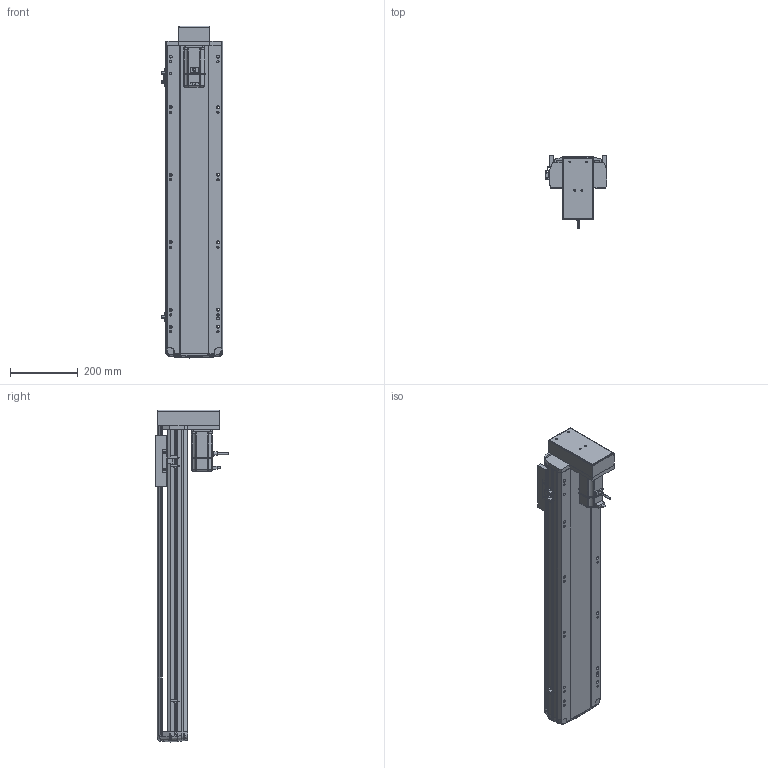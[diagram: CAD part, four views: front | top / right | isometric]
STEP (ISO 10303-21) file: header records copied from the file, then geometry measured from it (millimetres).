
FILE_DESCRIPTION (( 'STEP AP214' ), '1' );
FILE_NAME ('RTH17-XX-700-M-M40-C4.STEP', '2025-10-24T09:06:54', ( '' ), ( '' ), 'SwSTEP 2.0', 'SolidWorks 2018', '' );
FILE_SCHEMA (( 'AUTOMOTIVE_DESIGN' ));
Length unit declared in the file: millimetre
Products named in the file (10): N_RTH17-M-011底座^RTH17-XX-XX-M-M40-C4（方程式）; N_RTH17-GY-001P^RTH17-XX-XX-M-M40-C4（方程式）; N_M40^RTH17-XX-XX-M-M40-C4（方程式）; N_RTH17-M-007上盖^RTH17-XX-XX-M-M40-C4（方程式）; RTH17-XX-700-M-M40-C4; N_RTH17-M-008-P40电机安装板下折^RTH17-XX-XX-M-M40-C4（方程式）; N_RTH-BL-012 感应片(外置)^RTH17-XX-XX-M-M40-C4（方程式）; N_OMRON EE-SX672 換覜ん^RTH17-XX-XX-M-M40-C4ㄗ源最宒ㄘ; N_RTH17-M-018盖子^RTH17-XX-XX-M-M40-C4（方程式）; N_RTH17-E-004丝杆螺母连接座^RTH17-XX-XX-M-M40-C4（方程式）
Assembly tree (11 placements, depth 2):
  RTH17-XX-700-M-M40-C4
    N_RTH17-M-011底座^RTH17-XX-XX-M-M40-C4（方程式）
    N_RTH17-M-007上盖^RTH17-XX-XX-M-M40-C4（方程式）
    N_M40^RTH17-XX-XX-M-M40-C4（方程式）
    N_OMRON EE-SX672 換覜ん^RTH17-XX-XX-M-M40-C4ㄗ源最宒ㄘ  x3
    N_RTH-BL-012 感应片(外置)^RTH17-XX-XX-M-M40-C4（方程式）
    N_RTH17-M-008-P40电机安装板下折^RTH17-XX-XX-M-M40-C4（方程式）
    N_RTH17-M-018盖子^RTH17-XX-XX-M-M40-C4（方程式）
    N_RTH17-E-004丝杆螺母连接座^RTH17-XX-XX-M-M40-C4（方程式）
    N_RTH17-GY-001P^RTH17-XX-XX-M-M40-C4（方程式）
Bounding box: 183.5 x 219 x 983.19 mm (x, y, z)
Volume: 7795623.7 mm3; surface area: 1132733.8 mm2
Topology: 10 solids, 12 shells, 1663 faces, 4644 edges, 3028 vertices
Faces by surface type: plane 832, cylinder 464, bspline 330, cone 28, torus 9
Entity records: 48672 total; most frequent: CARTESIAN_POINT 19660, ORIENTED_EDGE 6312, DIRECTION 5200, EDGE_CURVE 3160, VERTEX_POINT 2064, VECTOR 1774, LINE 1774, AXIS2_PLACEMENT_3D 1713
